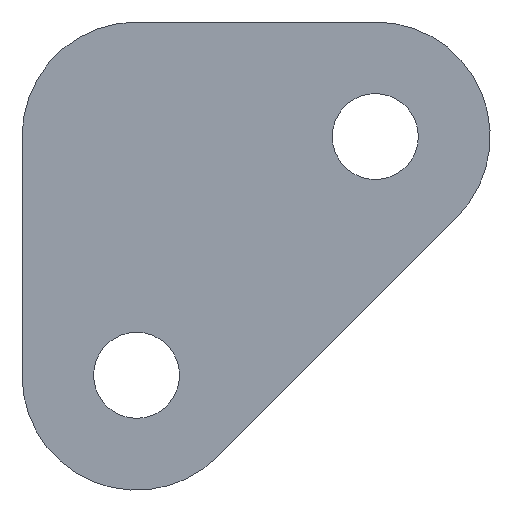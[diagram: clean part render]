
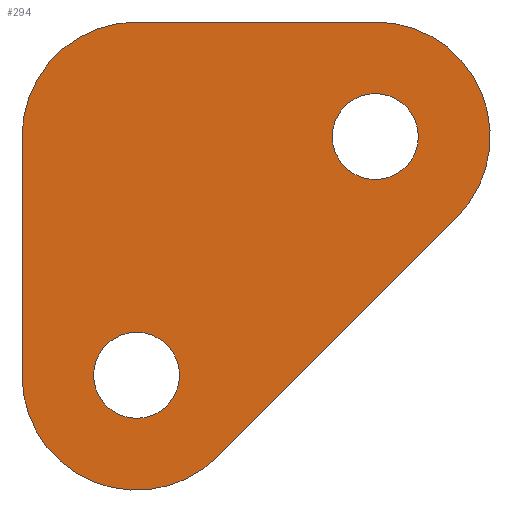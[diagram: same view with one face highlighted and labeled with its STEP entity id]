
A CAD part, front view. The second image highlights one B-rep face of the part: STEP entity #294.
In plain terms, the highlighted planar face has unit normal (0, -1, 0).
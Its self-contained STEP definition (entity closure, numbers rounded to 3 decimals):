
#21=FACE_BOUND('',#82,.T.);
#22=FACE_BOUND('',#83,.T.);
#30=PLANE('',#353);
#57=FACE_OUTER_BOUND('',#81,.T.);
#81=EDGE_LOOP('',(#268,#269,#270,#271,#272,#273));
#82=EDGE_LOOP('',(#274));
#83=EDGE_LOOP('',(#275));
#93=LINE('',#501,#112);
#97=LINE('',#513,#116);
#101=LINE('',#524,#120);
#112=VECTOR('',#417,10.);
#116=VECTOR('',#429,10.);
#120=VECTOR('',#441,10.);
#132=CIRCLE('',#337,2.25);
#133=CIRCLE('',#339,2.25);
#134=CIRCLE('',#341,6.);
#136=CIRCLE('',#345,6.);
#138=CIRCLE('',#349,6.);
#151=VERTEX_POINT('',#483);
#152=VERTEX_POINT('',#487);
#153=VERTEX_POINT('',#491);
#154=VERTEX_POINT('',#492);
#157=VERTEX_POINT('',#500);
#159=VERTEX_POINT('',#506);
#161=VERTEX_POINT('',#512);
#163=VERTEX_POINT('',#518);
#180=EDGE_CURVE('',#151,#151,#132,.T.);
#182=EDGE_CURVE('',#152,#152,#133,.T.);
#184=EDGE_CURVE('',#153,#154,#134,.T.);
#188=EDGE_CURVE('',#157,#153,#93,.T.);
#191=EDGE_CURVE('',#159,#157,#136,.T.);
#194=EDGE_CURVE('',#161,#159,#97,.T.);
#197=EDGE_CURVE('',#163,#161,#138,.T.);
#200=EDGE_CURVE('',#154,#163,#101,.T.);
#268=ORIENTED_EDGE('',*,*,#200,.F.);
#269=ORIENTED_EDGE('',*,*,#184,.F.);
#270=ORIENTED_EDGE('',*,*,#188,.F.);
#271=ORIENTED_EDGE('',*,*,#191,.F.);
#272=ORIENTED_EDGE('',*,*,#194,.F.);
#273=ORIENTED_EDGE('',*,*,#197,.F.);
#274=ORIENTED_EDGE('',*,*,#180,.T.);
#275=ORIENTED_EDGE('',*,*,#182,.T.);
#294=ADVANCED_FACE('',(#57,#21,#22),#30,.T.);
#337=AXIS2_PLACEMENT_3D('',#484,#399,#400);
#339=AXIS2_PLACEMENT_3D('',#488,#404,#405);
#341=AXIS2_PLACEMENT_3D('',#493,#409,#410);
#345=AXIS2_PLACEMENT_3D('',#507,#422,#423);
#349=AXIS2_PLACEMENT_3D('',#519,#434,#435);
#353=AXIS2_PLACEMENT_3D('',#527,#445,#446);
#399=DIRECTION('center_axis',(0.,1.,0.));
#400=DIRECTION('ref_axis',(1.,0.,0.));
#404=DIRECTION('center_axis',(0.,1.,0.));
#405=DIRECTION('ref_axis',(1.,0.,0.));
#409=DIRECTION('center_axis',(0.,1.,0.));
#410=DIRECTION('ref_axis',(0.707,0.,-0.707));
#417=DIRECTION('',(-0.707,0.,-0.707));
#422=DIRECTION('center_axis',(0.,1.,0.));
#423=DIRECTION('ref_axis',(0.,0.,1.));
#429=DIRECTION('',(1.,0.,0.));
#434=DIRECTION('center_axis',(0.,1.,0.));
#435=DIRECTION('ref_axis',(-1.,0.,0.));
#441=DIRECTION('',(0.,0.,1.));
#445=DIRECTION('center_axis',(0.,-1.,0.));
#446=DIRECTION('ref_axis',(0.,0.,-1.));
#483=CARTESIAN_POINT('',(16.25,0.,-6.));
#484=CARTESIAN_POINT('Origin',(18.5,0.,-6.));
#487=CARTESIAN_POINT('',(3.75,0.,-18.5));
#488=CARTESIAN_POINT('Origin',(6.,0.,-18.5));
#491=CARTESIAN_POINT('',(10.243,0.,-22.757));
#492=CARTESIAN_POINT('',(0.,0.,-18.515));
#493=CARTESIAN_POINT('Origin',(6.,0.,-18.515));
#500=CARTESIAN_POINT('',(22.757,0.,-10.243));
#501=CARTESIAN_POINT('',(22.757,0.,-10.243));
#506=CARTESIAN_POINT('',(18.515,0.,0.));
#507=CARTESIAN_POINT('Origin',(18.515,0.,-6.));
#512=CARTESIAN_POINT('',(6.,0.,0.));
#513=CARTESIAN_POINT('',(6.,0.,0.));
#518=CARTESIAN_POINT('',(0.,0.,-6.));
#519=CARTESIAN_POINT('Origin',(6.,0.,-6.));
#524=CARTESIAN_POINT('',(0.,0.,-18.515));
#527=CARTESIAN_POINT('Origin',(10.532,0.,-10.532));
